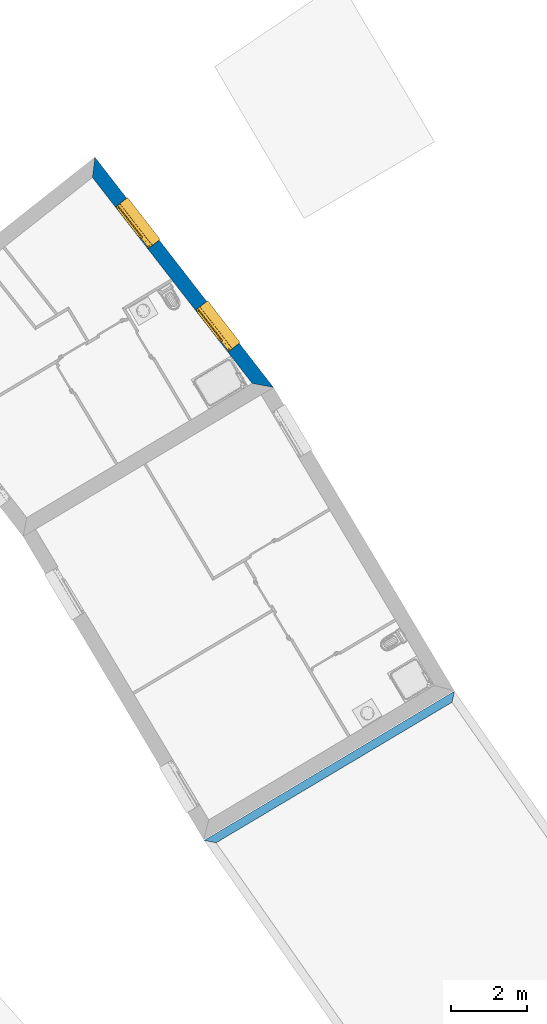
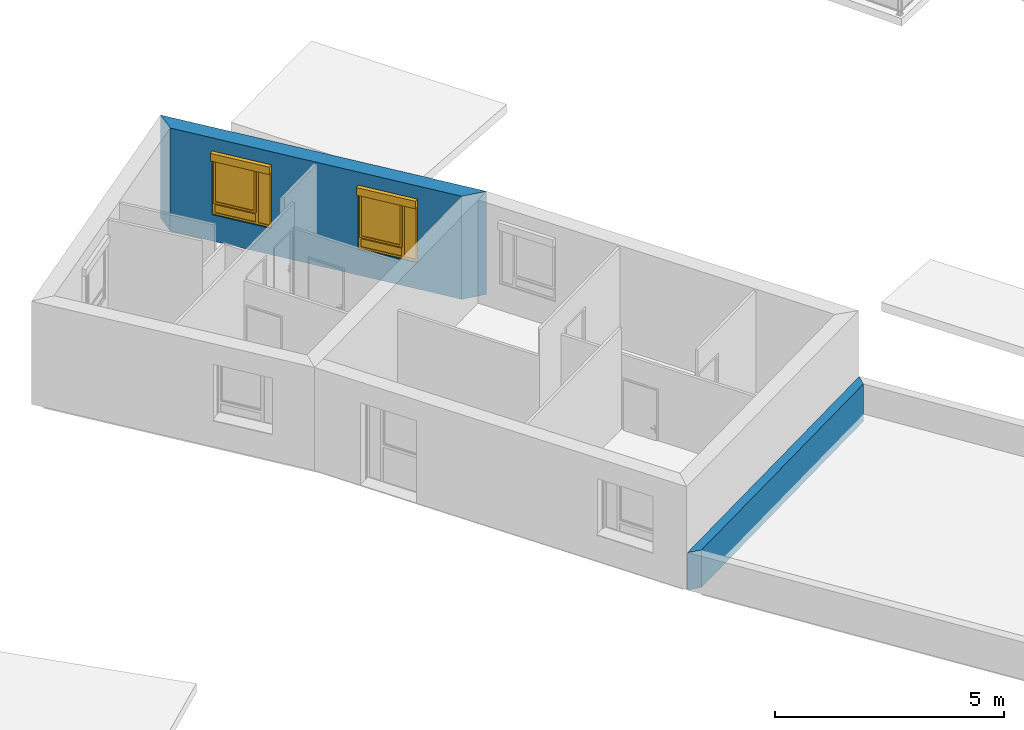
# One storey, part 44 of 121: 2 walls, 2 windows, 2 openings.
"""IFC2X3 building model written with IfcOpenShell, lengths in metres."""

from ifc_helpers import new_model, entity, si_unit, converted_unit, derived_unit, money_unit, direction, frame, origin_with_axes, place, context, subcontext, project, spatial, polyline, outline, extrude, open_shell, faceted_brep, surface_model, source, transform, mapped, material, layer, layer_set, layer_usage, type_object, element, fill, save


model = new_model("IFC2X3")

# Units and contexts
model_context = context("Model", 3, precision=1e-05, world=origin_with_axes(), true_north=direction((0.0, 1.0)))
body_context = subcontext(model_context, "Body", "Model", "MODEL_VIEW")
ifc_project = project(units=[si_unit("LENGTHUNIT", "METRE"), si_unit("AREAUNIT", "SQUARE_METRE"), si_unit("VOLUMEUNIT", "CUBIC_METRE"), converted_unit("PLANEANGLEUNIT", "DEGREE", entity("IfcPlaneAngleMeasure", 0.0174532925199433), si_unit("PLANEANGLEUNIT", "RADIAN"), dimensions=[0, 0, 0, 0, 0, 0, 0]), money_unit("CHF"), converted_unit("TIMEUNIT", "Year", entity("IfcTimeMeasure", 31557600.0), si_unit("TIMEUNIT", "SECOND"), dimensions=[0, 0, 1, 0, 0, 0, 0]), si_unit("MASSUNIT", "GRAM", prefix="KILO"), si_unit("THERMODYNAMICTEMPERATUREUNIT", "DEGREE_CELSIUS"), si_unit("LUMINOUSINTENSITYUNIT", "LUMEN"), si_unit("ENERGYUNIT", "JOULE", prefix="MEGA"), derived_unit("THERMALCONDUCTANCEUNIT", [(si_unit("POWERUNIT", "WATT"), 1), (si_unit("LENGTHUNIT", "METRE"), -1), (si_unit("THERMODYNAMICTEMPERATUREUNIT", "KELVIN"), -1)]), derived_unit("SPECIFICHEATCAPACITYUNIT", [(si_unit("ENERGYUNIT", "JOULE"), 1), (si_unit("MASSUNIT", "GRAM", prefix="KILO"), -1), (si_unit("THERMODYNAMICTEMPERATUREUNIT", "KELVIN"), -1)]), derived_unit("MASSDENSITYUNIT", [(si_unit("MASSUNIT", "GRAM", prefix="KILO"), 1), (si_unit("VOLUMEUNIT", "CUBIC_METRE"), -1)])], contexts=[model_context])

# Site, building, storey
site_placement = place(None, origin_with_axes())
site = spatial("IfcSite", under=ifc_project, at=site_placement, Name="Site", CompositionType="ELEMENT")
building_placement = place(site_placement, origin_with_axes())
building = spatial("IfcBuilding", under=site, at=building_placement, Name="Bâtiment", CompositionType="ELEMENT")
storey_placement = place(building_placement, frame((0.0, 0.0, 2.75), z_axis=(0.0, 0.0, 1.0), x_axis=(1.0, 0.0, 0.0)))
storey = spatial("IfcBuildingStorey", under=building, at=storey_placement, Name="Etage 1", CompositionType="ELEMENT", Elevation=2.75)

# Wall, openings, windows
ifc_material_1 = material(Name="Parpaing 312445824")
ifc_layer_1 = layer(ifc_material_1, 0.22, ventilated="UNKNOWN")
ifc_material_2 = material(Name="Isolant styromousse 301821074")
ifc_layer_2 = layer(ifc_material_2, 0.16, ventilated="UNKNOWN")
ifc_layer_set_1 = layer_set([ifc_layer_1, ifc_layer_2], Name="isol int 22+16 0836643197")
ifc_layer_usage_1 = layer_usage(ifc_layer_set_1, "AXIS2", "NEGATIVE", 0.0)
wall_type_1 = type_object("IfcWallType", Name="isol int 22+16 0836643197 380", PredefinedType="NOTDEFINED")
wall_1_placement = place(storey_placement, frame((9540.339143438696, -1037.191138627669, 57.7), z_axis=(0.0, 0.0, 1.0), x_axis=(0.6128948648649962, -0.7901644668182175, 0.0)))
wall_1 = element("IfcWallStandardCase", 1, at=wall_1_placement, inside=storey, type_object=wall_type_1, material=ifc_layer_usage_1, Name="Mur-113", context=body_context, shape_type="SweptSolid", body=[
    extrude(outline(polyline([(0.3834810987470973, -0.3800000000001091), (7.263213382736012, -0.3799999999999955), (7.692825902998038, 0.0), (0.0, 0.0), (0.3834810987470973, -0.3800000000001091)])), origin_with_axes(), (0.0, 0.0, 1.0), 2.75),
])
opening_1_placement = place(wall_1_placement, frame((5.517918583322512, 0.0, 0.7000000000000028), z_axis=(0.0, 0.0, 1.0), x_axis=(1.0, 0.0, 0.0)))
opening_1 = element("IfcOpeningElement", 2, at=opening_1_placement, cuts=wall_1, Name="Fen-045", context=body_context, shape_type="Brep", body=[
    faceted_brep([(-0.6999999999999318, -0.2199999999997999, 1.5), (0.7000000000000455, -0.2199999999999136, 1.5), (0.6999999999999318, 3.726541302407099, 1.5), (-0.6999999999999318, 3.726541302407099, 1.5), (-0.6999999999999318, -0.2199999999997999, 1.700000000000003), (0.7000000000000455, -0.2199999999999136, 1.700000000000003), (0.6999999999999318, -0.2999999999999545, 1.5), (0.6999999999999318, -0.2999999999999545, 0.0), (0.6999999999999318, 3.726541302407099, 0.0), (-0.6999999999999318, 3.726541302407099, 0.0), (-0.6999999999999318, -0.3000000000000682, 1.5), (-0.7000000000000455, -0.2999999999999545, 0.0), (-0.7000000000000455, -0.4799999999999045, 1.5), (-0.7000000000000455, -0.4799999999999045, 1.700000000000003), (0.7000000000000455, -0.4799999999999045, 1.700000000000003), (0.7000000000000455, -0.4799999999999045, 1.5), (0.6999999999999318, -4.106541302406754, 1.5), (0.6999999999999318, -4.106541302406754, 0.0), (-0.7000000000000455, -4.106541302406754, 0.0), (-0.7000000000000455, -4.106541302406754, 1.5)], [[[0, 1, 2, 3]], [[1, 0, 4, 5]], [[1, 6, 7, 8, 2]], [[2, 8, 9, 3]], [[10, 0, 3, 9, 11]], [[0, 10, 12, 13, 4]], [[14, 5, 4, 13]], [[6, 1, 5, 14, 15]], [[6, 15, 16, 17, 7]], [[7, 11, 9, 8]], [[12, 10, 11, 18, 19]], [[12, 15, 14, 13]], [[15, 12, 19, 16]], [[19, 18, 17, 16]], [[11, 7, 17, 18]]]),
])
opening_2_placement = place(wall_1_placement, frame((2.071759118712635, 0.0, 0.7000000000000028), z_axis=(0.0, 0.0, 1.0), x_axis=(1.0, 0.0, 0.0)))
opening_2 = element("IfcOpeningElement", 3, at=opening_2_placement, cuts=wall_1, Name="Fen-045", context=body_context, shape_type="Brep", body=[
    faceted_brep([(-0.6999999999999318, -0.2200000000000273, 1.5), (0.7000000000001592, -0.2199999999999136, 1.5), (0.7000000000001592, 3.726541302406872, 1.5), (-0.6999999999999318, 3.726541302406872, 1.5), (-0.6999999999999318, -0.2200000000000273, 1.700000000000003), (0.7000000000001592, -0.2199999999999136, 1.700000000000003), (0.7000000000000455, -0.3000000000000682, 1.5), (0.7000000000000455, -0.3000000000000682, 0.0), (0.7000000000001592, 3.726541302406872, 0.0), (-0.6999999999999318, 3.726541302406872, 0.0), (-0.6999999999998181, -0.3000000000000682, 1.5), (-0.6999999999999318, -0.2999999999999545, 0.0), (-0.6999999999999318, -0.4800000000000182, 1.5), (-0.6999999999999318, -0.4800000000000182, 1.700000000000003), (0.7000000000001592, -0.4799999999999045, 1.700000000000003), (0.7000000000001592, -0.4799999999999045, 1.5), (0.7000000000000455, -4.106541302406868, 1.5), (0.7000000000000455, -4.106541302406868, 0.0), (-0.6999999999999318, -4.106541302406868, 0.0), (-0.6999999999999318, -4.106541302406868, 1.5)], [[[0, 1, 2, 3]], [[1, 0, 4, 5]], [[1, 6, 7, 8, 2]], [[2, 8, 9, 3]], [[10, 0, 3, 9, 11]], [[0, 10, 12, 13, 4]], [[14, 5, 4, 13]], [[6, 1, 5, 14, 15]], [[6, 15, 16, 17, 7]], [[7, 11, 9, 8]], [[12, 10, 11, 18, 19]], [[12, 15, 14, 13]], [[15, 12, 19, 16]], [[19, 18, 17, 16]], [[11, 7, 17, 18]]]),
])
window_style = type_object("IfcWindowStyle", Name="Fenêtre variable 27", ConstructionType="NOTDEFINED", OperationType="TRIPLE_PANEL_LEFT", ParameterTakesPrecedence=False, Sizeable=False)
shared_shape = source(origin_with_axes(), body_context, "Body", "SurfaceModel", [
    surface_model("IfcShellBasedSurfaceModel", [(0.7, -0.05100000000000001, 0.05), (-0.7, -0.05100000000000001, 0.05000000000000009), (-0.7, -0.05100000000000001, 0.04000000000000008), (0.7, -0.05100000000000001, 0.04), (-0.7, -0.3799999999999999, 0.02900000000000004), (0.7, -0.3799999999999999, 0.02899999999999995), (-0.7, -0.3799999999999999, 0.00900000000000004), (0.7, -0.3799999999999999, 0.008999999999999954), (-0.7, -0.3699999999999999, 0.01900000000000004), (0.7, -0.3699999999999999, 0.01899999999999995)], [open_shell([[[0, 1, 2, 3]], [[3, 2, 4, 5]], [[5, 4, 6, 7]], [[7, 6, 8, 9]]])]),
    faceted_brep([(0.7, -0.13, 1.7), (0.7, 0.13, 1.7), (0.697, 0.13, 1.7), (0.697, -0.13, 1.7), (0.7, -0.13, 1.5), (0.7, 0.13, 1.5), (0.697, 0.13, 1.5), (0.697, -0.13, 1.5)], [[[0, 1, 2, 3]], [[0, 4, 5, 1]], [[1, 5, 6, 2]], [[3, 2, 6, 7]], [[4, 0, 3, 7]], [[5, 4, 7, 6]]]),
    faceted_brep([(-0.6970000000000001, -0.1299999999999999, 1.7), (-0.6970000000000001, 0.1300000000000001, 1.7), (-0.7000000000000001, 0.1300000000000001, 1.7), (-0.7000000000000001, -0.1299999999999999, 1.7), (-0.6970000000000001, -0.1299999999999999, 1.5), (-0.6970000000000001, 0.1300000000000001, 1.5), (-0.7000000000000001, 0.1300000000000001, 1.5), (-0.7000000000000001, -0.1299999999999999, 1.5)], [[[0, 1, 2, 3]], [[0, 4, 5, 1]], [[1, 5, 6, 2]], [[3, 2, 6, 7]], [[4, 0, 3, 7]], [[5, 4, 7, 6]]]),
    faceted_brep([(0.697, -0.13, 1.5), (0.697, -0.13, 1.7), (-0.697, -0.1299999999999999, 1.7), (-0.697, -0.1299999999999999, 1.5), (0.697, -0.127, 1.5), (0.697, -0.127, 1.697), (0.697, 0.127, 1.697), (0.697, 0.127, 1.503), (0.697, -0.108, 1.503), (0.697, -0.108, 1.5), (0.697, 0.13, 1.5), (0.697, 0.13, 1.7), (-0.697, 0.1300000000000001, 1.7), (-0.697, 0.1300000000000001, 1.5), (-0.697, -0.1079999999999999, 1.5), (-0.697, -0.1079999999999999, 1.503), (-0.697, 0.1270000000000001, 1.503), (-0.697, 0.1270000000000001, 1.697), (-0.697, -0.1269999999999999, 1.697), (-0.697, -0.1269999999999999, 1.5)], [[[0, 1, 2, 3]], [[0, 4, 5, 6, 7, 8, 9, 10, 11, 1]], [[1, 11, 12, 2]], [[3, 2, 12, 13, 14, 15, 16, 17, 18, 19]], [[4, 0, 3, 19]], [[5, 4, 19, 18]], [[6, 5, 18, 17]], [[7, 6, 17, 16]], [[8, 7, 16, 15]], [[9, 8, 15, 14]], [[10, 9, 14, 13]], [[11, 10, 13, 12]]]),
    faceted_brep([(0.694, -0.08075423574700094, 1.585760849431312), (0.694, -0.07705479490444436, 1.571954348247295), (0.694, -0.07101408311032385, 1.559), (0.694, -0.06281564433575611, 1.547291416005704), (0.694, -0.05270858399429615, 1.537184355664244), (0.694, -0.04099999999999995, 1.528985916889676), (0.694, -0.02804565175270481, 1.522945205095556), (0.694, -0.01423915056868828, 1.519245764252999), (0.694, 0.0, 1.518), (0.694, 0.01423915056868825, 1.519245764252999), (0.694, 0.02804565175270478, 1.522945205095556), (0.694, 0.04099999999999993, 1.528985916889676), (0.694, 0.05270858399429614, 1.537184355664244), (0.694, 0.06281564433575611, 1.547291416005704), (0.694, 0.07101408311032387, 1.559), (0.694, 0.07705479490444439, 1.571954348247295), (0.694, 0.08075423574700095, 1.585760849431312), (0.694, 0.0819999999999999, 1.6), (0.694, 0.08075423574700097, 1.614239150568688), (0.694, 0.0770547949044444, 1.628045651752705), (0.694, 0.07101408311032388, 1.641), (0.694, 0.06281564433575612, 1.652708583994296), (0.694, 0.05270858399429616, 1.662815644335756), (0.694, 0.04099999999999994, 1.671014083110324), (0.694, 0.02804565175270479, 1.677054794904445), (0.694, 0.01423915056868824, 1.680754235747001), (0.694, 0.0, 1.682), (0.694, -0.01423915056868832, 1.680754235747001), (0.694, -0.02804565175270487, 1.677054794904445), (0.694, -0.04100000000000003, 1.671014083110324), (0.694, -0.05270858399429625, 1.662815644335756), (0.694, -0.06281564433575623, 1.652708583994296), (0.694, -0.07101408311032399, 1.641), (0.694, -0.07705479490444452, 1.628045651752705), (0.694, -0.0807542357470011, 1.614239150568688), (0.694, -0.08200000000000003, 1.6), (-0.694, -0.08075423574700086, 1.585760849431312), (-0.694, -0.07705479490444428, 1.571954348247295), (-0.694, -0.07101408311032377, 1.559), (-0.694, -0.06281564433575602, 1.547291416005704), (-0.694, -0.05270858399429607, 1.537184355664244), (-0.694, -0.04099999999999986, 1.528985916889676), (-0.694, -0.02804565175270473, 1.522945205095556), (-0.694, -0.0142391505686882, 1.519245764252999), (-0.694, 0.0, 1.518), (-0.694, 0.01423915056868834, 1.519245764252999), (-0.694, 0.02804565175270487, 1.522945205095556), (-0.694, 0.04100000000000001, 1.528985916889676), (-0.694, 0.05270858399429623, 1.537184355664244), (-0.694, 0.06281564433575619, 1.547291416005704), (-0.694, 0.07101408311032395, 1.559), (-0.694, 0.07705479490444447, 1.571954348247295), (-0.694, 0.08075423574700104, 1.585760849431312), (-0.694, 0.08199999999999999, 1.6), (-0.694, 0.08075423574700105, 1.614239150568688), (-0.694, 0.07705479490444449, 1.628045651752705), (-0.694, 0.07101408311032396, 1.641), (-0.694, 0.0628156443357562, 1.652708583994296), (-0.694, 0.05270858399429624, 1.662815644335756), (-0.694, 0.04100000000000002, 1.671014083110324), (-0.694, 0.02804565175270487, 1.677054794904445), (-0.694, 0.01423915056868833, 1.680754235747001), (-0.694, 0.0, 1.682), (-0.694, -0.01423915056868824, 1.680754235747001), (-0.694, -0.02804565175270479, 1.677054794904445), (-0.694, -0.04099999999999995, 1.671014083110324), (-0.694, -0.05270858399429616, 1.662815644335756), (-0.694, -0.06281564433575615, 1.652708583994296), (-0.694, -0.07101408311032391, 1.641), (-0.694, -0.07705479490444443, 1.628045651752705), (-0.694, -0.08075423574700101, 1.614239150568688), (-0.694, -0.08199999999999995, 1.6)], [[[0, 1, 2, 3, 4, 5, 6, 7, 8, 9, 10, 11, 12, 13, 14, 15, 16, 17, 18, 19, 20, 21, 22, 23, 24, 25, 26, 27, 28, 29, 30, 31, 32, 33, 34, 35]], [[1, 0, 36, 37]], [[2, 1, 37, 38]], [[3, 2, 38, 39]], [[4, 3, 39, 40]], [[5, 4, 40, 41]], [[6, 5, 41, 42]], [[7, 6, 42, 43]], [[8, 7, 43, 44]], [[9, 8, 44, 45]], [[10, 9, 45, 46]], [[11, 10, 46, 47]], [[12, 11, 47, 48]], [[13, 12, 48, 49]], [[14, 13, 49, 50]], [[15, 14, 50, 51]], [[16, 15, 51, 52]], [[17, 16, 52, 53]], [[18, 17, 53, 54]], [[19, 18, 54, 55]], [[20, 19, 55, 56]], [[21, 20, 56, 57]], [[22, 21, 57, 58]], [[23, 22, 58, 59]], [[24, 23, 59, 60]], [[25, 24, 60, 61]], [[26, 25, 61, 62]], [[27, 26, 62, 63]], [[28, 27, 63, 64]], [[29, 28, 64, 65]], [[30, 29, 65, 66]], [[31, 30, 66, 67]], [[32, 31, 67, 68]], [[33, 32, 68, 69]], [[34, 33, 69, 70]], [[35, 34, 70, 71]], [[0, 35, 71, 36]], [[36, 71, 70, 69, 68, 67, 66, 65, 64, 63, 62, 61, 60, 59, 58, 57, 56, 55, 54, 53, 52, 51, 50, 49, 48, 47, 46, 45, 44, 43, 42, 41, 40, 39, 38, 37]]]),
    faceted_brep([(-0.7, -0.105, 0.03), (-0.7, -0.13, 0.03), (-0.7, -0.1299999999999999, 1.5), (-0.7, -0.1049999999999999, 1.5), (-0.6749999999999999, -0.105, 0.03), (-0.6749999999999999, -0.108, 0.03), (-0.697, -0.108, 0.03), (-0.697, -0.127, 0.03), (-0.6749999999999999, -0.127, 0.03), (-0.6749999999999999, -0.13, 0.03), (-0.6749999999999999, -0.1299999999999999, 1.5), (-0.6749999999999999, -0.1269999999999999, 1.5), (-0.697, -0.1269999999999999, 1.5), (-0.697, -0.1079999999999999, 1.5), (-0.6749999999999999, -0.1079999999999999, 1.5), (-0.6749999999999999, -0.1049999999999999, 1.5)], [[[0, 1, 2, 3]], [[0, 4, 5, 6, 7, 8, 9, 1]], [[1, 9, 10, 2]], [[3, 2, 10, 11, 12, 13, 14, 15]], [[4, 0, 3, 15]], [[5, 4, 15, 14]], [[6, 5, 14, 13]], [[7, 6, 13, 12]], [[8, 7, 12, 11]], [[9, 8, 11, 10]]]),
    faceted_brep([(0.7, -0.105, 0.03), (0.7, -0.1049999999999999, 1.5), (0.7, -0.1299999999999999, 1.5), (0.7, -0.13, 0.03), (0.6749999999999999, -0.105, 0.03), (0.6749999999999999, -0.1049999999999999, 1.5), (0.6749999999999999, -0.1079999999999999, 1.5), (0.697, -0.1079999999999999, 1.5), (0.697, -0.1269999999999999, 1.5), (0.6749999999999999, -0.1269999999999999, 1.5), (0.6749999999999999, -0.1299999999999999, 1.5), (0.6749999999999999, -0.13, 0.03), (0.6749999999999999, -0.127, 0.03), (0.697, -0.127, 0.03), (0.697, -0.108, 0.03), (0.6749999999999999, -0.108, 0.03)], [[[0, 1, 2, 3]], [[4, 5, 1, 0]], [[1, 5, 6, 7, 8, 9, 10, 2]], [[3, 2, 10, 11]], [[0, 3, 11, 12, 13, 14, 15, 4]], [[15, 6, 5, 4]], [[14, 7, 6, 15]], [[13, 8, 7, 14]], [[12, 9, 8, 13]], [[11, 10, 9, 12]]]),
    surface_model("IfcShellBasedSurfaceModel", [(0.697, -0.115, 1.6), (-0.697, -0.1149999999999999, 1.6), (-0.697, -0.12, 1.6), (0.697, -0.12, 1.6), (0.697, -0.115, 1.6), (0.697, -0.12, 1.6), (-0.697, -0.1199999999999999, 1.6), (-0.697, -0.1149999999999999, 1.6)], [open_shell([[[0, 1, 2, 3]], [[4, 5, 6, 7]]])]),
    faceted_brep([(0.697, -0.115, 1.6), (0.697, -0.1166666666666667, 1.583333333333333), (-0.697, -0.1166666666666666, 1.583333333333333), (-0.697, -0.1149999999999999, 1.6), (0.697, -0.12, 1.6), (0.697, -0.1216666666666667, 1.583333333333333), (0.697, -0.1216666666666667, 1.566666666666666), (0.697, -0.12, 1.55), (0.697, -0.115, 1.55), (0.697, -0.1166666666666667, 1.566666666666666), (-0.697, -0.1166666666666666, 1.566666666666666), (-0.697, -0.1149999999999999, 1.55), (-0.697, -0.1199999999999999, 1.55), (-0.697, -0.1216666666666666, 1.566666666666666), (-0.697, -0.1216666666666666, 1.583333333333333), (-0.697, -0.1199999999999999, 1.6)], [[[0, 1, 2, 3]], [[0, 4, 5, 6, 7, 8, 9, 1]], [[1, 9, 10, 2]], [[3, 2, 10, 11, 12, 13, 14, 15]], [[4, 0, 3, 15]], [[5, 4, 15, 14]], [[6, 5, 14, 13]], [[7, 6, 13, 12]], [[8, 7, 12, 11]], [[9, 8, 11, 10]]]),
    faceted_brep([(0.697, -0.115, 1.55), (0.697, -0.1166666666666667, 1.533333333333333), (-0.697, -0.1166666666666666, 1.533333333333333), (-0.697, -0.1149999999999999, 1.55), (0.697, -0.12, 1.55), (0.697, -0.1216666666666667, 1.533333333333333), (0.697, -0.1216666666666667, 1.516666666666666), (0.697, -0.12, 1.5), (0.697, -0.115, 1.5), (0.697, -0.1166666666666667, 1.516666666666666), (-0.697, -0.1166666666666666, 1.516666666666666), (-0.697, -0.1149999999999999, 1.5), (-0.697, -0.1199999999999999, 1.5), (-0.697, -0.1216666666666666, 1.516666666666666), (-0.697, -0.1216666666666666, 1.533333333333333), (-0.697, -0.1199999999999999, 1.55)], [[[0, 1, 2, 3]], [[0, 4, 5, 6, 7, 8, 9, 1]], [[1, 9, 10, 2]], [[3, 2, 10, 11, 12, 13, 14, 15]], [[4, 0, 3, 15]], [[5, 4, 15, 14]], [[6, 5, 14, 13]], [[7, 6, 13, 12]], [[8, 7, 12, 11]], [[9, 8, 11, 10]]]),
    faceted_brep([(0.6749999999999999, 0.0, 1.45), (0.6749999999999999, -0.02500000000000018, 1.45), (0.6499999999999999, -0.02500000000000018, 1.45), (0.6499999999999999, -0.05000000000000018, 1.45), (0.7, -0.05000000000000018, 1.45), (0.7, 0.0, 1.45), (0.6749999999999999, 0.0, 0.3099999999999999), (0.6749999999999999, -0.02500000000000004, 0.3099999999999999), (0.6499999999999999, -0.02500000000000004, 0.335), (0.6499999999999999, -0.02500000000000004, 0.3099999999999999), (0.6499999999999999, -0.05000000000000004, 0.335), (0.6499999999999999, -0.05000000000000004, 0.265), (0.6499999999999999, -0.05000000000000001, 0.05000000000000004), (0.7, -0.05000000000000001, 0.05000000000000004), (0.7, 0.0, 0.05000000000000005), (0.6499999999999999, 0.0, 0.05000000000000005), (0.6499999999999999, 0.0, 0.265), (0.6499999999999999, 0.0, 0.3099999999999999)], [[[0, 1, 2, 3, 4, 5]], [[1, 0, 6, 7]], [[8, 2, 1, 7, 9]], [[2, 8, 10, 3]], [[10, 11, 12, 13, 4, 3]], [[5, 4, 13, 14]], [[6, 0, 5, 14, 15, 16, 17]], [[6, 17, 9, 7]], [[9, 17, 16, 11, 10, 8]], [[15, 12, 11, 16]], [[14, 13, 12, 15]]]),
    faceted_brep([(-0.3068894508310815, -0.02500000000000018, 1.45), (-0.3318894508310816, -0.02500000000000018, 1.45), (-0.3318894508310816, 0.0, 1.45), (-0.3768894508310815, 0.0, 1.45), (-0.3768894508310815, -0.05000000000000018, 1.45), (-0.3068894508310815, -0.05000000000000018, 1.45), (-0.3068894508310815, -0.02500000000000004, 0.335), (-0.3068894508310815, -0.02500000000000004, 0.3099999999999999), (-0.3318894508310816, -0.02500000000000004, 0.3099999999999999), (-0.3318894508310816, 0.0, 0.3099999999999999), (-0.3068894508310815, 0.0, 0.3099999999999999), (-0.3068894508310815, 0.0, 0.265), (-0.3068894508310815, 0.0, 0.05000000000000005), (-0.3768894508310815, 0.0, 0.05000000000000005), (-0.3768894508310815, -0.05000000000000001, 0.05000000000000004), (-0.3068894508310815, -0.05000000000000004, 0.265), (-0.3068894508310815, -0.05000000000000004, 0.335), (-0.3068894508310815, -0.05000000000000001, 0.05000000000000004)], [[[0, 1, 2, 3, 4, 5]], [[1, 0, 6, 7, 8]], [[9, 2, 1, 8]], [[9, 10, 11, 12, 13, 3, 2]], [[13, 14, 4, 3]], [[15, 16, 5, 4, 14, 17]], [[6, 0, 5, 16]], [[7, 6, 16, 15, 11, 10]], [[10, 9, 8, 7]], [[11, 15, 17, 12]], [[12, 17, 14, 13]]]),
    faceted_brep([(0.6499999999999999, -0.02500000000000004, 0.335), (-0.3068894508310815, -0.02500000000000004, 0.335), (-0.3068894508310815, -0.05000000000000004, 0.335), (0.6499999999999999, -0.05000000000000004, 0.335), (-0.3068894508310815, -0.02500000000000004, 0.3099999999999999), (0.6499999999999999, -0.02500000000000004, 0.3099999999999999), (-0.3068894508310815, 0.0, 0.3099999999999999), (-0.3068894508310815, 0.0, 0.265), (-0.3068894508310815, -0.05000000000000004, 0.265), (0.6499999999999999, -0.05000000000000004, 0.265), (0.6499999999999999, 0.0, 0.265), (0.6499999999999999, 0.0, 0.3099999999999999)], [[[0, 1, 2, 3]], [[4, 1, 0, 5]], [[4, 6, 7, 8, 2, 1]], [[2, 8, 9, 3]], [[5, 0, 3, 9, 10, 11]], [[11, 6, 4, 5]], [[6, 11, 10, 7]], [[10, 9, 8, 7]]]),
    faceted_brep([(0.6749999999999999, 0.0, 1.45), (0.6749999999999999, 0.0, 1.475), (-0.3318894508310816, 0.0, 1.475), (-0.3318894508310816, 0.0, 1.45), (-0.3768894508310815, 0.0, 1.45), (-0.6499999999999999, 0.0, 1.45), (-0.7, 0.0, 1.45), (-0.7, 0.0, 1.5), (0.7, 0.0, 1.5), (0.7, 0.0, 1.45), (0.6749999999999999, -0.02500000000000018, 1.45), (0.6749999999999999, -0.02500000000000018, 1.475), (-0.3318894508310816, -0.02500000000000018, 1.475), (-0.3318894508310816, -0.02500000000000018, 1.45), (-0.3068894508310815, -0.02500000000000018, 1.45), (-0.3068894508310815, -0.05000000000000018, 1.45), (-0.3768894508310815, -0.05000000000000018, 1.45), (-0.6499999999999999, -0.05000000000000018, 1.45), (-0.7, -0.05000000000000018, 1.45), (-0.7, -0.05000000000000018, 1.5), (0.7, -0.05000000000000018, 1.5), (0.7, -0.05000000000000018, 1.45), (0.6499999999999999, -0.05000000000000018, 1.45), (0.6499999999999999, -0.02500000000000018, 1.45)], [[[0, 1, 2, 3, 4, 5, 6, 7, 8, 9]], [[1, 0, 10, 11]], [[2, 1, 11, 12]], [[3, 2, 12, 13]], [[13, 14, 15, 16, 4, 3]], [[4, 16, 17, 5]], [[5, 17, 18, 6]], [[6, 18, 19, 7]], [[7, 19, 20, 8]], [[8, 20, 21, 9]], [[10, 0, 9, 21, 22, 23]], [[14, 13, 12, 11, 10, 23]], [[14, 23, 22, 15]], [[16, 15, 22, 21, 20, 19, 18, 17]]]),
    faceted_brep([(-0.6499999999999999, -0.05000000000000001, 0.05), (-0.7, -0.05000000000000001, 0.05), (-0.7, 0.0, 0.05000000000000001), (-0.6499999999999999, 0.0, 0.05000000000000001), (-0.6499999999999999, -0.05000000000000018, 1.45), (-0.7, -0.05000000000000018, 1.45), (-0.7, 0.0, 1.45), (-0.6499999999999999, 0.0, 1.45)], [[[0, 1, 2, 3]], [[0, 4, 5, 1]], [[1, 5, 6, 2]], [[3, 2, 6, 7]], [[4, 0, 3, 7]], [[5, 4, 7, 6]]]),
    faceted_brep([(0.6499999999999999, -0.05000000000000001, 0.05), (0.7, -0.05000000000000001, 0.05), (0.7, 0.0, 0.05000000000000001), (0.6499999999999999, 0.0, 0.05000000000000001), (-0.3068894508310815, -0.05000000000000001, 0.05), (-0.3768894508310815, -0.05000000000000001, 0.05), (-0.6499999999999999, -0.05000000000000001, 0.05), (-0.7, -0.05000000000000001, 0.05), (-0.7, -0.05, 0.0), (0.7, -0.05, 0.0), (0.7, 0.0, 0.0), (-0.7, 0.0, 0.0), (-0.7, 0.0, 0.05000000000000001), (-0.6499999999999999, 0.0, 0.05000000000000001), (-0.3768894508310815, 0.0, 0.05000000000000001), (-0.3068894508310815, 0.0, 0.05000000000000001)], [[[0, 1, 2, 3]], [[0, 4, 5, 6, 7, 8, 9, 1]], [[1, 9, 10, 2]], [[3, 2, 10, 11, 12, 13, 14, 15]], [[4, 0, 3, 15]], [[5, 4, 15, 14]], [[6, 5, 14, 13]], [[7, 6, 13, 12]], [[8, 7, 12, 11]], [[9, 8, 11, 10]]]),
    faceted_brep([(0.625, -0.02500000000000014, 1.425), (0.6749999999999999, -0.02500000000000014, 1.425), (0.6749999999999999, 0.02499999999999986, 1.425), (0.625, 0.02499999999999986, 1.425), (0.625, -0.02500000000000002, 0.3599999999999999), (0.6749999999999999, -0.02500000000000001, 0.3599999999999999), (0.6749999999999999, 0.02499999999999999, 0.3599999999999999), (0.625, 0.02499999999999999, 0.3599999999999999)], [[[0, 1, 2, 3]], [[0, 4, 5, 1]], [[1, 5, 6, 2]], [[3, 2, 6, 7]], [[4, 0, 3, 7]], [[5, 4, 7, 6]]]),
    faceted_brep([(-0.2818894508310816, -0.02500000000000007, 0.3599999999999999), (-0.3318894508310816, -0.02500000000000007, 0.3599999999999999), (-0.3318894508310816, 0.02499999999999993, 0.3599999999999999), (-0.2818894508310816, 0.02499999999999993, 0.3599999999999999), (-0.2818894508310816, -0.0250000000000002, 1.425), (-0.3318894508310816, -0.0250000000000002, 1.425), (-0.3318894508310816, 0.0249999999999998, 1.425), (-0.2818894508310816, 0.0249999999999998, 1.425)], [[[0, 1, 2, 3]], [[0, 4, 5, 1]], [[1, 5, 6, 2]], [[3, 2, 6, 7]], [[4, 0, 3, 7]], [[5, 4, 7, 6]]]),
    faceted_brep([(-0.3318894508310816, -0.02500000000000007, 0.3099999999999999), (-0.3318894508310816, -0.02500000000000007, 0.3599999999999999), (-0.3318894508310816, 0.02499999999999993, 0.3599999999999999), (-0.3318894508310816, 0.02499999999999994, 0.3099999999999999), (0.6749999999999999, -0.025, 0.3099999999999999), (0.6749999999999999, -0.02500000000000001, 0.3599999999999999), (0.625, -0.02500000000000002, 0.3599999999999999), (-0.2818894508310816, -0.02500000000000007, 0.3599999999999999), (-0.2818894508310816, 0.02499999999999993, 0.3599999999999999), (0.625, 0.02499999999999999, 0.3599999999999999), (0.6749999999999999, 0.02499999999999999, 0.3599999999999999), (0.6749999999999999, 0.02499999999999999, 0.3099999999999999)], [[[0, 1, 2, 3]], [[0, 4, 5, 6, 7, 1]], [[1, 7, 8, 2]], [[3, 2, 8, 9, 10, 11]], [[4, 0, 3, 11]], [[5, 4, 11, 10]], [[6, 5, 10, 9]], [[7, 6, 9, 8]]]),
    faceted_brep([(0.6749999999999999, -0.02500000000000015, 1.475), (0.6749999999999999, -0.02500000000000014, 1.425), (0.6749999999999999, 0.02499999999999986, 1.425), (0.6749999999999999, 0.02499999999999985, 1.475), (-0.3318894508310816, -0.02500000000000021, 1.475), (-0.3318894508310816, -0.0250000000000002, 1.425), (-0.2818894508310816, -0.0250000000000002, 1.425), (0.625, -0.02500000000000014, 1.425), (0.625, 0.02499999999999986, 1.425), (-0.2818894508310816, 0.0249999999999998, 1.425), (-0.3318894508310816, 0.0249999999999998, 1.425), (-0.3318894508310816, 0.02499999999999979, 1.475)], [[[0, 1, 2, 3]], [[0, 4, 5, 6, 7, 1]], [[1, 7, 8, 2]], [[3, 2, 8, 9, 10, 11]], [[4, 0, 3, 11]], [[5, 4, 11, 10]], [[6, 5, 10, 9]], [[7, 6, 9, 8]]]),
    surface_model("IfcShellBasedSurfaceModel", [(0.625, -0.01000000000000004, 0.3599999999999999), (0.625, -0.01000000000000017, 1.425), (-0.2818894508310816, -0.01000000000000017, 1.425), (-0.2818894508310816, -0.01000000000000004, 0.3599999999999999)], [open_shell([[[0, 1, 2, 3]]])]),
    surface_model("IfcShellBasedSurfaceModel", [(0.625, 0.009999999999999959, 0.3599999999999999), (-0.2818894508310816, 0.009999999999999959, 0.3599999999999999), (-0.2818894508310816, 0.00999999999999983, 1.425), (0.625, 0.00999999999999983, 1.425)], [open_shell([[[0, 1, 2, 3]]])]),
    surface_model("IfcShellBasedSurfaceModel", [(-0.3768894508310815, -0.035, 0.05), (-0.3768894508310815, -0.03500000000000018, 1.45), (-0.65, -0.03500000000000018, 1.45), (-0.65, -0.035, 0.05)], [open_shell([[[0, 1, 2, 3]]])]),
    surface_model("IfcShellBasedSurfaceModel", [(-0.3768894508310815, -0.015, 0.05), (-0.65, -0.015, 0.05), (-0.65, -0.01500000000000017, 1.45), (-0.3768894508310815, -0.01500000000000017, 1.45)], [open_shell([[[0, 1, 2, 3]]])]),
    surface_model("IfcShellBasedSurfaceModel", [(0.6499999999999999, -0.035, 0.05), (0.6499999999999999, -0.03500000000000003, 0.265), (-0.3068894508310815, -0.03500000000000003, 0.265), (-0.3068894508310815, -0.035, 0.05)], [open_shell([[[0, 1, 2, 3]]])]),
    surface_model("IfcShellBasedSurfaceModel", [(0.6499999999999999, -0.015, 0.05), (-0.3068894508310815, -0.015, 0.05), (-0.3068894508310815, -0.01500000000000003, 0.265), (0.6499999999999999, -0.01500000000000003, 0.265)], [open_shell([[[0, 1, 2, 3]]])]),
])
window_1_placement = place(opening_2_placement, frame((0.7000000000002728, 0.0, 0.0), z_axis=(0.0, 0.0, 1.0), x_axis=(-1.0, 0.0, 0.0)))
window_1 = element("IfcWindow", 4, at=window_1_placement, inside=storey, type_object=window_style, Name="Fen-045", OverallHeight=1.5, OverallWidth=1.4, context=body_context, shape_type="MappedRepresentation", body=[
    mapped(shared_shape, transform((0.6999999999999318, 0.3499999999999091, 0.0))),
])
fill(opening_2, window_1)
window_2_placement = place(opening_1_placement, frame((0.6999999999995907, 0.0, 0.0), z_axis=(0.0, 0.0, 1.0), x_axis=(-1.0, 0.0, 0.0)))
window_2 = element("IfcWindow", 5, at=window_2_placement, inside=storey, type_object=window_style, Name="Fen-045", OverallHeight=1.5, OverallWidth=1.4, context=body_context, shape_type="MappedRepresentation", body=[
    mapped(shared_shape, transform((0.6999999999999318, 0.3499999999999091, 0.0))),
])
fill(opening_1, window_2)

# Wall
ifc_material_3 = material(Name="Empty Fill 3000033799")
ifc_layer_3 = layer(ifc_material_3, 0.22, ventilated="UNKNOWN")
ifc_layer_set_2 = layer_set([ifc_layer_3], Name="acrotère 22")
ifc_layer_usage_2 = layer_usage(ifc_layer_set_2, "AXIS2", "POSITIVE", 0.0)
wall_type_2 = type_object("IfcWallType", Name="acrotère 22 220", PredefinedType="NOTDEFINED")
wall_2_placement = place(storey_placement, frame((9549.830385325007, -1051.286654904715, 57.7), z_axis=(0.0, 0.0, 1.0), x_axis=(-0.8590868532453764, -0.5118298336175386, 0.0)))
element("IfcWallStandardCase", 6, at=wall_2_placement, inside=storey, type_object=wall_type_2, material=ifc_layer_usage_2, Name="Mur-107", context=body_context, shape_type="SweptSolid", body=[
    extrude(outline(polyline([(0.0, 0.0), (7.691113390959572, 0.0), (7.454137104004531, 0.2199999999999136), (0.2042398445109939, 0.2199999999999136), (0.0, 0.0)])), origin_with_axes(), (0.0, 0.0, 1.0), 1.0),
])

save(model, "model.ifc")
